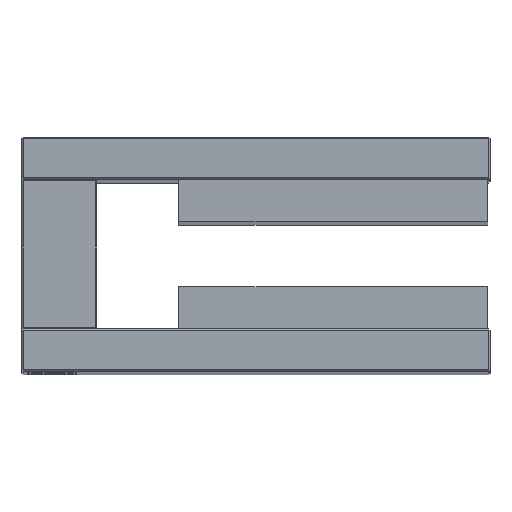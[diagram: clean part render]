
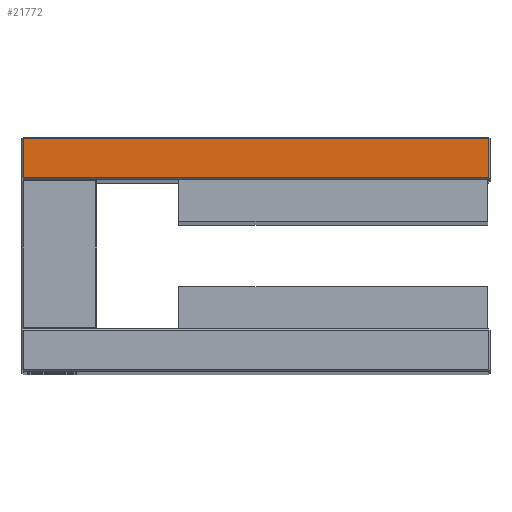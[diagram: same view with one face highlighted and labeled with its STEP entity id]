
A CAD part, top view. The second image highlights one B-rep face of the part: STEP entity #21772.
In plain terms, the highlighted planar face has unit normal (0, 0, 1).
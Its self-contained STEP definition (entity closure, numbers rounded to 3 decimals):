
#699 = EDGE_CURVE ( 'Defeatured_0_21+Defeatured_0_12+Defeatured_0_7+Defeatured_0_4', #11576, #7595, #19666, .T. ) ;
#2813 = LINE ( 'NONE', #22529, #18487 ) ;
#3934 = DIRECTION ( 'NONE',  ( -1., 0., 0. ) ) ;
#4157 = CARTESIAN_POINT ( 'NONE',  ( -7.927, 23.78, 294.788 ) ) ;
#4654 = CARTESIAN_POINT ( 'NONE',  ( -8.227, 23.48, 294.788 ) ) ;
#5045 = DIRECTION ( 'NONE',  ( 0., -1., 0. ) ) ;
#5060 = VECTOR ( 'NONE', #17591, 1000. ) ;
#5376 = CARTESIAN_POINT ( 'NONE',  ( -7.927, 23.48, 294.788 ) ) ;
#5747 = LINE ( 'NONE', #5376, #16255 ) ;
#6993 = DIRECTION ( 'NONE',  ( 0., 0., 1. ) ) ;
#7164 = VERTEX_POINT ( 'NONE', #23886 ) ;
#7595 = VERTEX_POINT ( 'NONE', #10125 ) ;
#7936 = ORIENTED_EDGE ( 'NONE', *, *, #21215, .T. ) ;
#9574 = CARTESIAN_POINT ( 'NONE',  ( 91.473, 32.48, 294.788 ) ) ;
#10072 = CARTESIAN_POINT ( 'NONE',  ( 91.473, 23.78, 294.788 ) ) ;
#10125 = CARTESIAN_POINT ( 'NONE',  ( 91.473, 32.18, 294.788 ) ) ;
#11576 = VERTEX_POINT ( 'NONE', #10072 ) ;
#12670 = DIRECTION ( 'NONE',  ( 1., 0., 0. ) ) ;
#12954 = VECTOR ( 'NONE', #3934, 1000. ) ;
#15825 = VERTEX_POINT ( 'NONE', #4157 ) ;
#16255 = VECTOR ( 'NONE', #21175, 1000. ) ;
#16337 = EDGE_CURVE ( 'Defeatured_0_21+Defeatured_0_7+Defeatured_0_1+Defeatured_0_12', #15825, #11576, #2813, .T. ) ;
#17591 = DIRECTION ( 'NONE',  ( 0., 1., 0. ) ) ;
#17918 = AXIS2_PLACEMENT_3D ( 'NONE', #4654, #6993, #5045 ) ;
#18162 = ORIENTED_EDGE ( 'NONE', *, *, #699, .T. ) ;
#18487 = VECTOR ( 'NONE', #12670, 1000. ) ;
#18652 = ORIENTED_EDGE ( 'NONE', *, *, #16337, .T. ) ;
#19666 = LINE ( 'NONE', #9574, #5060 ) ;
#19861 = LINE ( 'NONE', #23636, #12954 ) ;
#21175 = DIRECTION ( 'NONE',  ( 0., -1., 0. ) ) ;
#21215 = EDGE_CURVE ( 'Defeatured_0_21+Defeatured_0_1+Defeatured_0_4+Defeatured_0_7', #7164, #15825, #5747, .T. ) ;
#21349 = EDGE_CURVE ( 'Defeatured_0_21+Defeatured_0_4+Defeatured_0_12+Defeatured_0_1', #7595, #7164, #19861, .T. ) ;
#21772 = ADVANCED_FACE ( 'Defeatured_0_21', ( #22416 ), #24739, .T. ) ;
#21923 = EDGE_LOOP ( 'NONE', ( #7936, #18652, #18162, #23942 ) ) ;
#22416 = FACE_OUTER_BOUND ( 'NONE', #21923, .T. ) ;
#22529 = CARTESIAN_POINT ( 'NONE',  ( 91.773, 23.78, 294.788 ) ) ;
#23636 = CARTESIAN_POINT ( 'NONE',  ( -8.227, 32.18, 294.788 ) ) ;
#23886 = CARTESIAN_POINT ( 'NONE',  ( -7.927, 32.18, 294.788 ) ) ;
#23942 = ORIENTED_EDGE ( 'NONE', *, *, #21349, .T. ) ;
#24739 = PLANE ( 'NONE',  #17918 ) ;
